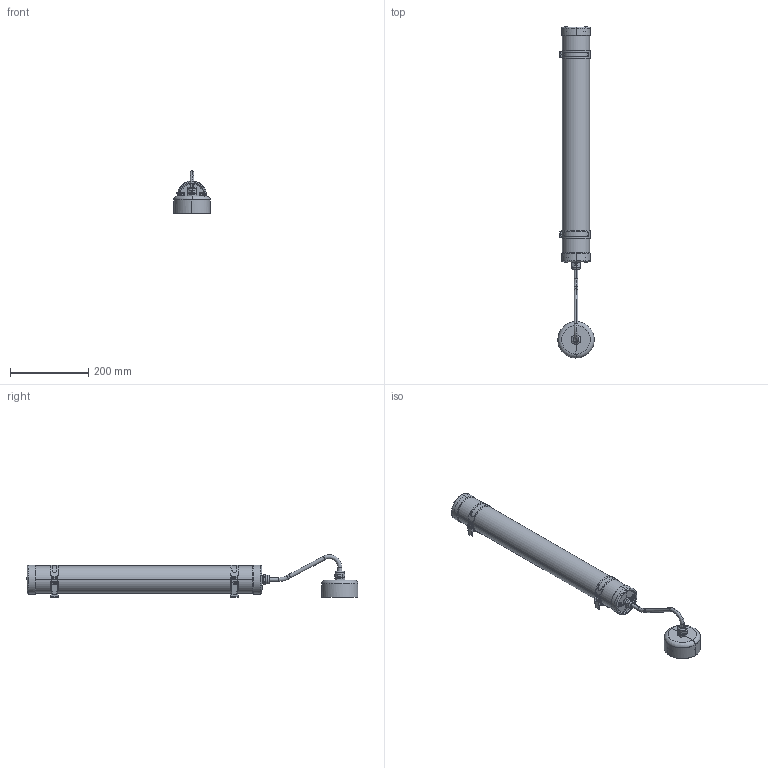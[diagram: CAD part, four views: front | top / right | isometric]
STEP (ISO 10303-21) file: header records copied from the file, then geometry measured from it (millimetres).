
FILE_DESCRIPTION(/* description */ (''),/* implementation_level */ '2;1');
FILE_NAME(/* name */ 'C:\Users\Franco Sartori E\Documents\FARO\DUPLICADO\Modelos\01_Digitalizados\2021\0_SCUBA\03_Publicación\75750+75755.stp',/* time_stamp */ '2021-03-02T14:02:15+01:00',/* author */ ('Franco Sartori E'),/* organization */ (''),/* preprocessor_version */ 'ST-DEVELOPER v18.1',/* originating_system */ 'AutoCAD Mechanical',/* authorisation */ '');
FILE_SCHEMA (('AUTOMOTIVE_DESIGN { 1 0 10303 214 3 1 1 }'));
Length unit declared in the file: millimetre
Products named in the file (3): Product; SCUBA_Lamp - LAMP-492922-_3D_; 75755 SCUBA accessory for wall lamp and suspension - 75755 SCUBA acce
ssory for wall lamp and suspension-492921-_3D_
Assembly tree (2 placements, depth 2):
  Product
    SCUBA_Lamp - LAMP-492922-_3D_
    75755 SCUBA accessory for wall lamp and suspension - 75755 SCUBA acce
ssory for wall lamp and suspension-492921-_3D_
Bounding box: 93 x 849.5 x 108.93 mm (x, y, z)
Volume: 433521.8 mm3; surface area: 423441.8 mm2
Topology: 28 solids, 30 shells, 578 faces, 1414 edges, 876 vertices
Faces by surface type: plane 284, cylinder 214, torus 60, cone 20
Entity records: 20291 total; most frequent: CARTESIAN_POINT 6824, ORIENTED_EDGE 2780, DIRECTION 2700, EDGE_CURVE 1414, AXIS2_PLACEMENT_3D 937, VERTEX_POINT 876, LINE 826, VECTOR 826
